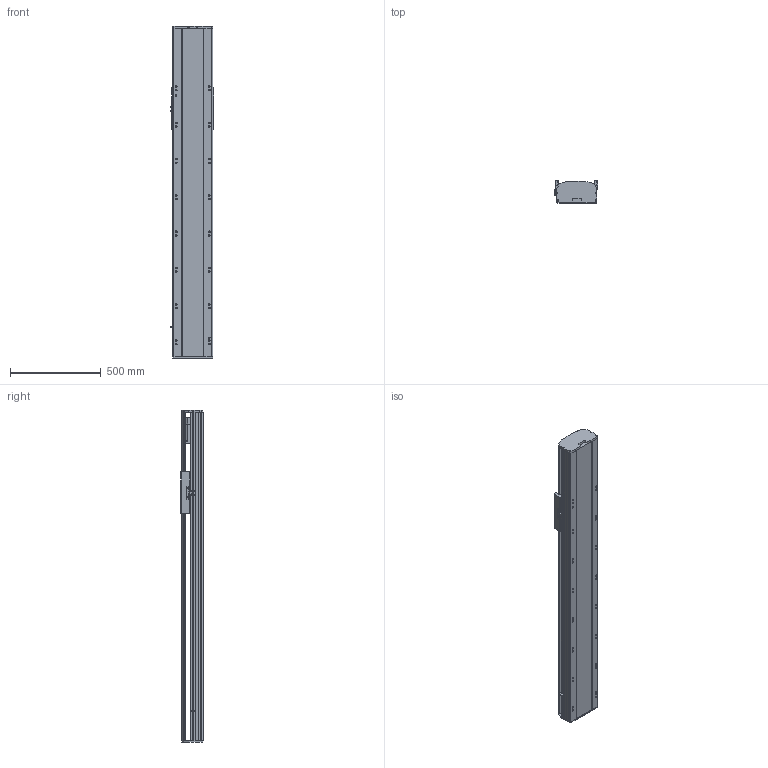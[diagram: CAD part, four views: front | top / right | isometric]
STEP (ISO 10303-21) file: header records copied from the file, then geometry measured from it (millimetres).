
FILE_DESCRIPTION (( 'STEP AP214' ), '1' );
FILE_NAME ('RTH22-XX-1200-B-M75B-C4.STEP', '2025-10-24T10:13:12', ( 'Microsoft' ), ( 'Microsoft' ), 'SwSTEP 2.0', 'SolidWorks 2018', '' );
FILE_SCHEMA (( 'AUTOMOTIVE_DESIGN' ));
Length unit declared in the file: millimetre
Products named in the file (9): N_RTH22-GY-001耜裔^RTH22-XX-XX-B-M75B-C4; N_750W萇儂^RTH22-XX-XX-B-M75B-C4; RTH22-XX-1200-B-M75B-C4; N_RTH22-E-004-SFS25賑釱^RTH22-XX-XX-B-M75B-C4; N_RTH22-GY-013外置感应片^RTH22-XX-XX-B-M75B-C4; N_OMRON EE-SX672 传感器^RTH22-XX-XX-B-M75B-C4; N_RTH22-B-011B菁釱^RTH22-XX-XX-B-M75B-C4; N_RTH22-B-007B奻裔^RTH22-XX-XX-B-M75B-C4; N_RTH22-B008萇儂啣^RTH22-XX-XX-B-M75B-C4
Assembly tree (10 placements, depth 2):
  RTH22-XX-1200-B-M75B-C4
    N_RTH22-B-011B菁釱^RTH22-XX-XX-B-M75B-C4
    N_RTH22-GY-001耜裔^RTH22-XX-XX-B-M75B-C4
    N_750W萇儂^RTH22-XX-XX-B-M75B-C4
    N_RTH22-B008萇儂啣^RTH22-XX-XX-B-M75B-C4
    N_RTH22-B-007B奻裔^RTH22-XX-XX-B-M75B-C4
    N_OMRON EE-SX672 传感器^RTH22-XX-XX-B-M75B-C4  x3
    N_RTH22-GY-013外置感应片^RTH22-XX-XX-B-M75B-C4
    N_RTH22-E-004-SFS25賑釱^RTH22-XX-XX-B-M75B-C4
Bounding box: 238.5 x 122 x 1830 mm (x, y, z)
Volume: 24292441.8 mm3; surface area: 2489336.6 mm2
Topology: 10 solids, 10 shells, 1551 faces, 4250 edges, 2743 vertices
Faces by surface type: plane 756, cylinder 454, bspline 279, cone 62
Entity records: 38749 total; most frequent: CARTESIAN_POINT 11993, ORIENTED_EDGE 5468, DIRECTION 5152, EDGE_CURVE 2734, VERTEX_POINT 1779, AXIS2_PLACEMENT_3D 1742, VECTOR 1668, LINE 1668
